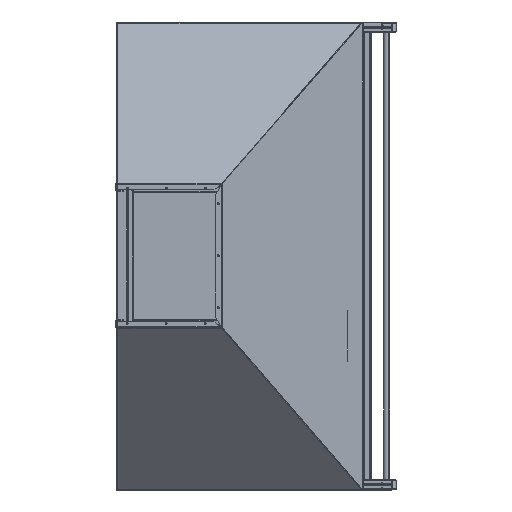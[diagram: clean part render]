
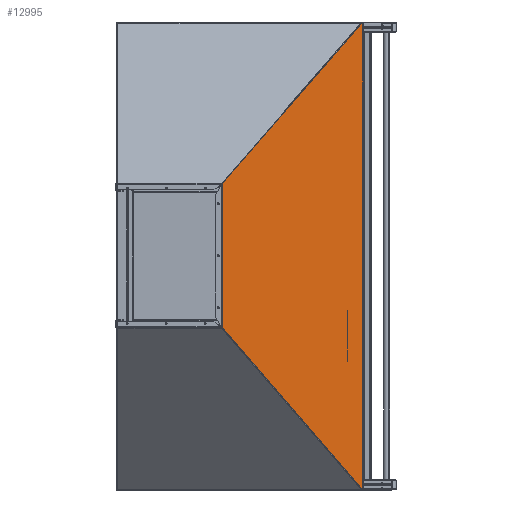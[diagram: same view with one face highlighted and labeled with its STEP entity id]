
A CAD part, top view. The second image highlights one B-rep face of the part: STEP entity #12995.
In plain terms, the highlighted planar face has unit normal (0.743, 0, 0.669).
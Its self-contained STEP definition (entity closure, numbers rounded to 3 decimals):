
#894=CIRCLE('',#134063,2.7);
#895=CIRCLE('',#134065,2.7);
#6370=PLANE('',#134072);
#12091=B_SPLINE_CURVE_WITH_KNOTS('',1,(#189924,#189925),.UNSPECIFIED.,.F.,
 .F.,(2,2),(0.,1.),.UNSPECIFIED.);
#12995=ADVANCED_FACE('INVOLUCRO',(#23339),#6370,.F.);
#23339=FACE_OUTER_BOUND('',#30899,.T.);
#30899=EDGE_LOOP('',(#42881,#42882,#42883,#42884,#42885,#42886,#42887,#42888));
#42881=ORIENTED_EDGE('',*,*,#90595,.F.);
#42882=ORIENTED_EDGE('',*,*,#90480,.T.);
#42883=ORIENTED_EDGE('',*,*,#90597,.F.);
#42884=ORIENTED_EDGE('',*,*,#90479,.F.);
#42885=ORIENTED_EDGE('',*,*,#90592,.T.);
#42886=ORIENTED_EDGE('',*,*,#90478,.T.);
#42887=ORIENTED_EDGE('',*,*,#90590,.F.);
#42888=ORIENTED_EDGE('',*,*,#90604,.F.);
#77532=VERTEX_POINT('',#189481);
#77534=VERTEX_POINT('',#189488);
#77536=VERTEX_POINT('',#189498);
#77540=VERTEX_POINT('',#189596);
#77554=VERTEX_POINT('',#189660);
#77555=VERTEX_POINT('',#189665);
#77632=VERTEX_POINT('',#189897);
#77634=VERTEX_POINT('',#189908);
#90478=EDGE_CURVE('LINE',#77534,#77532,#108558,.T.);
#90479=EDGE_CURVE('LINE',#77536,#77540,#108559,.T.);
#90480=EDGE_CURVE('LINE',#77554,#77555,#108560,.T.);
#90590=EDGE_CURVE('LINE',#77632,#77532,#108610,.T.);
#90592=EDGE_CURVE('LINE',#77536,#77534,#108612,.T.);
#90595=EDGE_CURVE('GENERATED CIRCLE',#77554,#77634,#894,.T.);
#90597=EDGE_CURVE('GENERATED CIRCLE',#77540,#77555,#895,.T.);
#90604=EDGE_CURVE('',#77634,#77632,#12091,.T.);
#108558=LINE('',#189672,#121289);
#108559=LINE('',#189674,#121290);
#108560=LINE('',#189676,#121291);
#108610=LINE('',#189898,#121341);
#108612=LINE('',#189902,#121343);
#121289=VECTOR('',#149521,1.);
#121290=VECTOR('',#149524,1.);
#121291=VECTOR('',#149527,1.);
#121341=VECTOR('',#149769,1.);
#121343=VECTOR('',#149775,1.);
#134063=AXIS2_PLACEMENT_3D('',#189907,#149781,#149782);
#134065=AXIS2_PLACEMENT_3D('',#189911,#149786,#149787);
#134072=AXIS2_PLACEMENT_3D('',#189926,#149805,#149806);
#149521=DIRECTION('',(0.,-1.,0.));
#149524=DIRECTION('',(0.53,0.611,-0.588));
#149527=DIRECTION('',(0.,1.,0.));
#149769=DIRECTION('',(0.669,0.,-0.743));
#149775=DIRECTION('',(0.669,0.,-0.743));
#149781=DIRECTION('',(-0.743,0.,-0.669));
#149782=DIRECTION('',(0.669,0.,-0.743));
#149786=DIRECTION('',(-0.743,0.,-0.669));
#149787=DIRECTION('',(0.669,0.,-0.743));
#149805=DIRECTION('',(-0.743,0.,-0.669));
#149806=DIRECTION('',(0.,-1.,0.));
#189481=CARTESIAN_POINT('',(97.743,-582.858,-396.15));
#189488=CARTESIAN_POINT('',(97.743,-306.706,-396.15));
#189498=CARTESIAN_POINT('',(97.679,-306.706,-396.078));
#189596=CARTESIAN_POINT('',(367.28,4.494,-695.501));
#189660=CARTESIAN_POINT('',(368.107,-892.991,-696.419));
#189665=CARTESIAN_POINT('',(368.107,3.427,-696.419));
#189672=CARTESIAN_POINT('',(97.743,-444.782,-396.15));
#189674=CARTESIAN_POINT('',(232.48,-151.106,-545.79));
#189676=CARTESIAN_POINT('',(368.107,-444.782,-696.419));
#189897=CARTESIAN_POINT('',(97.679,-582.858,-396.078));
#189898=CARTESIAN_POINT('',(97.711,-582.858,-396.114));
#189902=CARTESIAN_POINT('',(97.711,-306.706,-396.114));
#189907=CARTESIAN_POINT('',(366.568,-891.577,-694.71));
#189908=CARTESIAN_POINT('',(367.28,-894.058,-695.501));
#189911=CARTESIAN_POINT('',(366.568,2.012,-694.71));
#189924=CARTESIAN_POINT('',(367.28,-894.058,-695.501));
#189925=CARTESIAN_POINT('',(97.679,-582.858,-396.078));
#189926=CARTESIAN_POINT('',(368.107,-444.782,-696.419));
